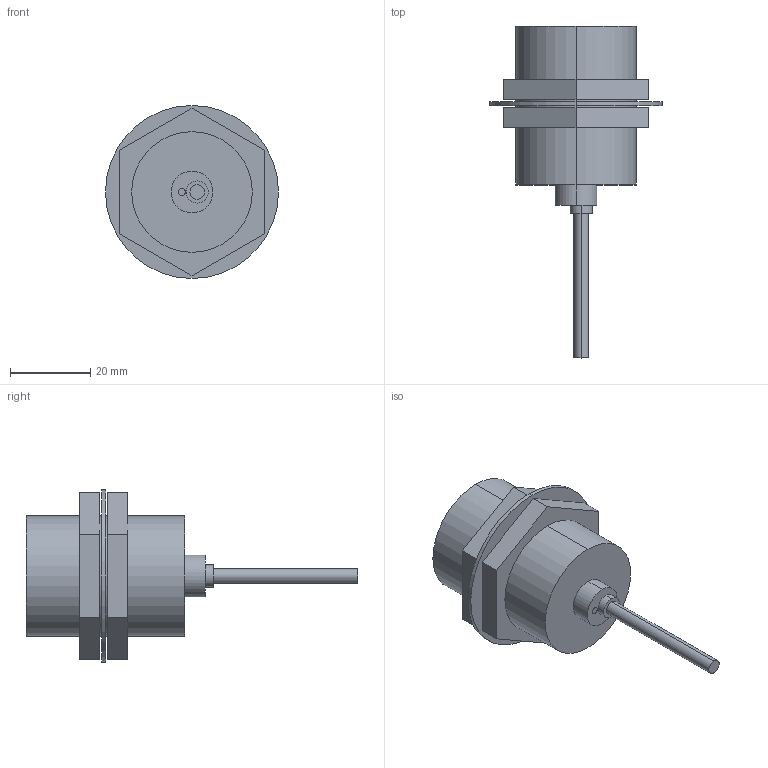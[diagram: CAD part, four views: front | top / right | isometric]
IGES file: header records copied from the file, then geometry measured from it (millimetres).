
Start section: SolidWorks IGES FILE using analytic representation for surfaces
Global section: file name: C:\Documents and Settings\yk0651\デスクトップ\3D_catalog_050929\0_IGES\GX-30MU.IGS; native system: SolidWorks 2004 by SolidWorks Corporation; preprocessor: Version 5.3; author: yk0651; date: 051002.164207; units: millimetre
Bounding box: 43 x 82.5 x 43 mm (x, y, z)
Volume: 33659.7 mm3; surface area: 11314.1 mm2
Topology: 4 solids, 4 shells, 45 faces, 96 edges, 64 vertices
Faces by surface type: plane 25, revolution 20
